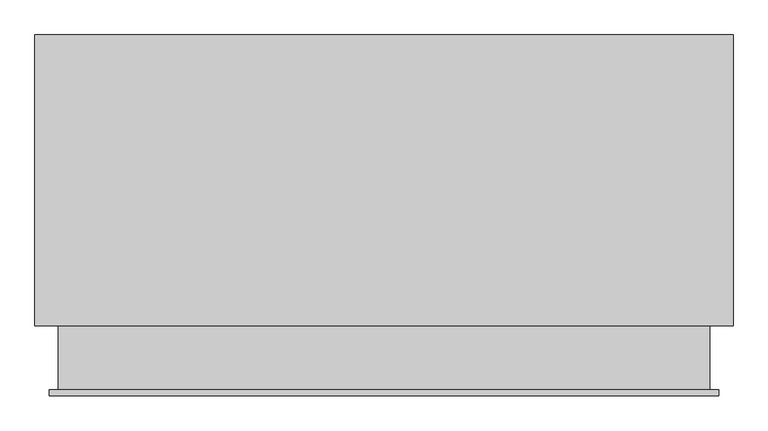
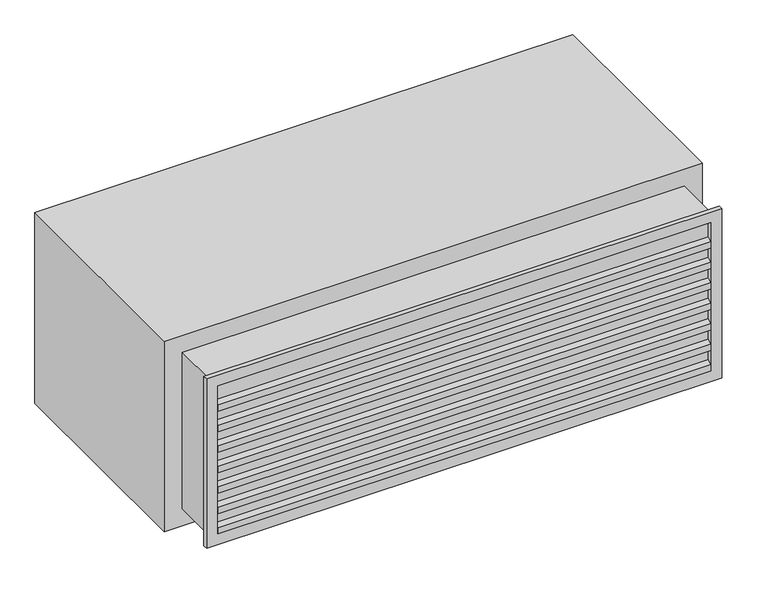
"""IFC4 building model written with IfcOpenShell, lengths in millimetres: air terminal geometry, 020_外気取入ガラリ : 外気取入ガラリ."""

from ifc_helpers import new_model, si_unit, frame, origin, place, context, project, spatial, polyline, outline, extrude, faceted_brep, source, transform, mapped, element, save


def air_terminal_cbde2da1(model_context):
    return source(origin(), model_context, "Body", "SolidModel", [
        extrude(outline(polyline([(48.0, 126.6666667), (50.0, 126.6666667), (50.0, 110.4494491), (-8.0, 80.4494491), (-8.0, 66.6666667), (-10.0, 66.6666667), (-10.0, 81.6666667), (48.0, 111.6666667), (48.0, 126.6666667)])), frame((-550.0, 0.0, 0.0), z_axis=(1.0, 0.0, 0.0), x_axis=(0.0, 1.0, 0.0)), (0.0, 0.0, 1.0), 1100.0),
        extrude(outline(polyline([(48.0, 78.3333333), (50.0, 78.3333333), (50.0, 62.1161157), (-8.0, 32.1161157), (-8.0, 18.3333333), (-10.0, 18.3333333), (-10.0, 33.3333333), (48.0, 63.3333333), (48.0, 78.3333333)])), frame((-550.0, 0.0, 0.0), z_axis=(1.0, 0.0, 0.0), x_axis=(0.0, 1.0, 0.0)), (0.0, 0.0, 1.0), 1100.0),
        extrude(outline(polyline([(48.0, 30.0), (50.0, 30.0), (50.0, 13.7827824), (-8.0, -16.2172176), (-8.0, -30.0), (-10.0, -30.0), (-10.0, -15.0), (48.0, 15.0), (48.0, 30.0)])), frame((-550.0, 0.0, 0.0), z_axis=(1.0, 0.0, 0.0), x_axis=(0.0, 1.0, 0.0)), (0.0, 0.0, 1.0), 1100.0),
        extrude(outline(polyline([(48.0, -18.3333333), (50.0, -18.3333333), (50.0, -34.5505509), (-8.0, -64.5505509), (-8.0, -78.3333333), (-10.0, -78.3333333), (-10.0, -63.3333333), (48.0, -33.3333333), (48.0, -18.3333333)])), frame((-550.0, 0.0, 0.0), z_axis=(1.0, 0.0, 0.0), x_axis=(0.0, 1.0, 0.0)), (0.0, 0.0, 1.0), 1100.0),
        extrude(outline(polyline([(48.0, -66.6666667), (50.0, -66.6666667), (50.0, -82.8838843), (-8.0, -112.8838843), (-8.0, -126.6666667), (-10.0, -126.6666667), (-10.0, -111.6666667), (48.0, -81.6666667), (48.0, -66.6666667)])), frame((-550.0, 0.0, 0.0), z_axis=(1.0, 0.0, 0.0), x_axis=(0.0, 1.0, 0.0)), (0.0, 0.0, 1.0), 1100.0),
        extrude(outline(polyline([(48.0, 175.0), (50.0, 175.0), (50.0, 158.7827824), (-8.0, 128.7827824), (-8.0, 115.0), (-10.0, 115.0), (-10.0, 130.0), (48.0, 160.0), (48.0, 175.0)])), frame((-550.0, 0.0, 0.0), z_axis=(1.0, 0.0, 0.0), x_axis=(0.0, 1.0, 0.0)), (0.0, 0.0, 1.0), 1100.0),
        extrude(outline(polyline([(48.0, -115.0), (50.0, -115.0), (50.0, -131.2172176), (-8.0, -161.2172176), (-8.0, -175.0), (-10.0, -175.0), (-10.0, -160.0), (48.0, -130.0), (48.0, -115.0)])), frame((-550.0, 0.0, 0.0), z_axis=(1.0, 0.0, 0.0), x_axis=(0.0, 1.0, 0.0)), (0.0, 0.0, 1.0), 1100.0),
        faceted_brep([(550.0, -10.0, 175.0), (550.0, 110.0, 175.0), (550.0, 110.0, -175.0), (550.0, -10.0, -175.0), (575.0, 0.0, 200.0), (575.0, -10.0, 200.0), (575.0, -10.0, -200.0), (575.0, 0.0, -200.0), (560.0, 110.0, 185.0), (560.0, 0.0, 185.0), (560.0, 0.0, -185.0), (560.0, 110.0, -185.0), (-550.0, 110.0, -175.0), (-550.0, -10.0, -175.0), (-575.0, -10.0, -200.0), (-575.0, 0.0, -200.0), (-560.0, 0.0, -185.0), (-560.0, 110.0, -185.0), (-550.0, 110.0, 175.0), (-550.0, -10.0, 175.0), (-575.0, -10.0, 200.0), (-575.0, 0.0, 200.0), (-560.0, 0.0, 185.0), (-560.0, 110.0, 185.0)], [[[0, 1, 2, 3]], [[4, 5, 6, 7]], [[8, 9, 10, 11]], [[3, 2, 12, 13]], [[7, 6, 14, 15]], [[11, 10, 16, 17]], [[13, 12, 18, 19]], [[15, 14, 20, 21]], [[17, 16, 22, 23]], [[19, 18, 1, 0]], [[5, 20, 14, 6], [3, 13, 19, 0]], [[21, 20, 5, 4]], [[7, 15, 21, 4], [9, 22, 16, 10]], [[23, 22, 9, 8]], [[11, 17, 23, 8], [1, 18, 12, 2]]]),
        extrude(outline(polyline([(550.0, 0.0), (-550.0, 0.0), (-550.0, 10.0), (550.0, 10.0), (550.0, 0.0)])), frame((0.0, 0.0, -175.0), z_axis=(0.0, 0.0, 1.0), x_axis=(1.0, 0.0, 0.0)), (0.0, 0.0, 1.0), 350.0),
        extrude(outline(polyline([(600.0, 110.0), (-600.0, 110.0), (-600.0, 610.0), (600.0, 610.0), (600.0, 110.0)])), frame((0.0, 0.0, -225.0), z_axis=(0.0, 0.0, 1.0), x_axis=(1.0, 0.0, 0.0)), (0.0, 0.0, 1.0), 450.0),
    ])


if __name__ == "__main__":
    model = new_model("IFC4")
    model_context = context("Model", 3, world=origin())
    ifc_project = project(units=[si_unit("LENGTHUNIT", "METRE", prefix="MILLI")], contexts=[model_context])
    site = spatial("IfcSite", under=ifc_project)
    building = spatial("IfcBuilding", under=site)
    placement = place(None, origin())
    air_terminal_shape = air_terminal_cbde2da1(model_context)
    element("IfcAirTerminal", 1, ObjectType="020_外気取入ガラリ : 外気取入ガラリ", at=placement, inside=building, context=model_context, shape_type="MappedRepresentation", body=[
        mapped(air_terminal_shape, transform((0.0, 0.0, 0.0), x_axis=(1.0, 0.0, 0.0), y_axis=(0.0, 1.0, 0.0), z_axis=(0.0, 0.0, 1.0))),
    ])
    save(model, "model.ifc")
